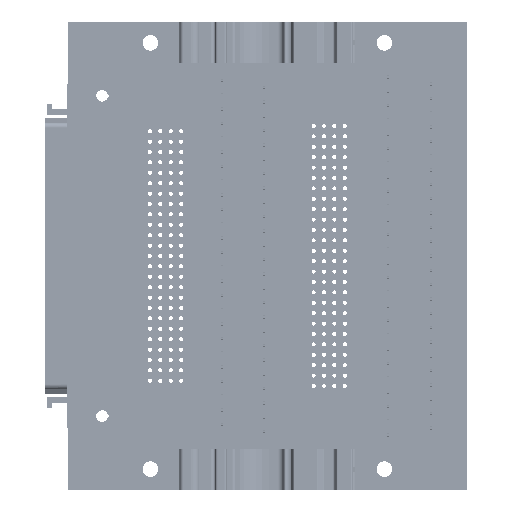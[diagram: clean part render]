
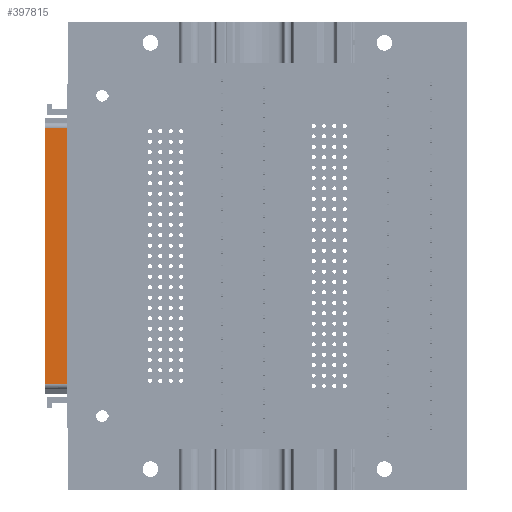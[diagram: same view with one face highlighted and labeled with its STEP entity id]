
A CAD part, front view. The second image highlights one B-rep face of the part: STEP entity #397815.
In plain terms, the highlighted planar face has unit normal (0, -1, 0).
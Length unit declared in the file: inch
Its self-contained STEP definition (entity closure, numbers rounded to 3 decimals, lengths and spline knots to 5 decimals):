
#4638 = CARTESIAN_POINT ( 'NONE',  ( -1.23481, 0.065, 0.5125 ) ) ;
#17880 = CARTESIAN_POINT ( 'NONE',  ( 1.23481, 0.065, 0.5125 ) ) ;
#40823 = ORIENTED_EDGE ( 'NONE', *, *, #177225, .F. ) ;
#44479 = CARTESIAN_POINT ( 'NONE',  ( -0.4116, 0.065, 0.5125 ) ) ;
#48488 = CARTESIAN_POINT ( 'NONE',  ( -0.4116, 0.065, 0.3025 ) ) ;
#51116 = CARTESIAN_POINT ( 'NONE',  ( 1.23481, 0.065, 0.5125 ) ) ;
#60446 = ORIENTED_EDGE ( 'NONE', *, *, #280318, .T. ) ;
#60644 = AXIS2_PLACEMENT_3D ( 'NONE', #129002, #305273, #94383 ) ;
#71382 = CARTESIAN_POINT ( 'NONE',  ( -1.23481, 0.065, 0.3025 ) ) ;
#94383 = DIRECTION ( 'NONE',  ( 0., 0., -1. ) ) ;
#116262 = B_SPLINE_CURVE_WITH_KNOTS ( 'NONE', 3,
 ( #389728, #246657, #44479, #285679 ),
 .UNSPECIFIED., .F., .F.,
 ( 4, 4 ),
 ( 0., 1. ),
 .UNSPECIFIED. ) ;
#128331 = B_SPLINE_CURVE_WITH_KNOTS ( 'NONE', 3,
 ( #365181, #423604, #433011, #17880 ),
 .UNSPECIFIED., .F., .F.,
 ( 4, 4 ),
 ( 0., 1. ),
 .UNSPECIFIED. ) ;
#129002 = CARTESIAN_POINT ( 'NONE',  ( -1.2842, 0.065, 0.29829 ) ) ;
#159644 = CARTESIAN_POINT ( 'NONE',  ( 1.23481, 0.065, 0.3025 ) ) ;
#172644 = EDGE_CURVE ( 'NONE', #252898, #283377, #279958, .T. ) ;
#176149 = CARTESIAN_POINT ( 'NONE',  ( -1.23481, 0.065, 0.3025 ) ) ;
#177225 = EDGE_CURVE ( 'NONE', #417925, #283377, #282940, .T. ) ;
#239474 = EDGE_LOOP ( 'NONE', ( #327094, #294351, #40823, #60446 ) ) ;
#243308 = CARTESIAN_POINT ( 'NONE',  ( -1.23481, 0.065, 0.3725 ) ) ;
#246657 = CARTESIAN_POINT ( 'NONE',  ( 0.4116, 0.065, 0.5125 ) ) ;
#252898 = VERTEX_POINT ( 'NONE', #4638 ) ;
#279958 = B_SPLINE_CURVE_WITH_KNOTS ( 'NONE', 3,
 ( #309597, #416585, #243308, #71382 ),
 .UNSPECIFIED., .F., .F.,
 ( 4, 4 ),
 ( 0., 1. ),
 .UNSPECIFIED. ) ;
#280318 = EDGE_CURVE ( 'NONE', #417925, #293054, #128331, .T. ) ;
#282940 = B_SPLINE_CURVE_WITH_KNOTS ( 'NONE', 3,
 ( #322910, #292640, #48488, #426937 ),
 .UNSPECIFIED., .F., .F.,
 ( 4, 4 ),
 ( 0., 1. ),
 .UNSPECIFIED. ) ;
#283377 = VERTEX_POINT ( 'NONE', #176149 ) ;
#285679 = CARTESIAN_POINT ( 'NONE',  ( -1.23481, 0.065, 0.5125 ) ) ;
#292640 = CARTESIAN_POINT ( 'NONE',  ( 0.4116, 0.065, 0.3025 ) ) ;
#293054 = VERTEX_POINT ( 'NONE', #51116 ) ;
#294351 = ORIENTED_EDGE ( 'NONE', *, *, #172644, .T. ) ;
#305273 = DIRECTION ( 'NONE',  ( 0., -1., 0. ) ) ;
#309597 = CARTESIAN_POINT ( 'NONE',  ( -1.23481, 0.065, 0.5125 ) ) ;
#320177 = FACE_OUTER_BOUND ( 'NONE', #239474, .T. ) ;
#322910 = CARTESIAN_POINT ( 'NONE',  ( 1.23481, 0.065, 0.3025 ) ) ;
#327094 = ORIENTED_EDGE ( 'NONE', *, *, #352736, .T. ) ;
#352736 = EDGE_CURVE ( 'NONE', #293054, #252898, #116262, .T. ) ;
#365181 = CARTESIAN_POINT ( 'NONE',  ( 1.23481, 0.065, 0.3025 ) ) ;
#370150 = PLANE ( 'NONE',  #60644 ) ;
#389728 = CARTESIAN_POINT ( 'NONE',  ( 1.23481, 0.065, 0.5125 ) ) ;
#397815 = ADVANCED_FACE ( 'NONE', ( #320177 ), #370150, .T. ) ;
#416585 = CARTESIAN_POINT ( 'NONE',  ( -1.23481, 0.065, 0.4425 ) ) ;
#417925 = VERTEX_POINT ( 'NONE', #159644 ) ;
#423604 = CARTESIAN_POINT ( 'NONE',  ( 1.23481, 0.065, 0.3725 ) ) ;
#426937 = CARTESIAN_POINT ( 'NONE',  ( -1.23481, 0.065, 0.3025 ) ) ;
#433011 = CARTESIAN_POINT ( 'NONE',  ( 1.23481, 0.065, 0.4425 ) ) ;
